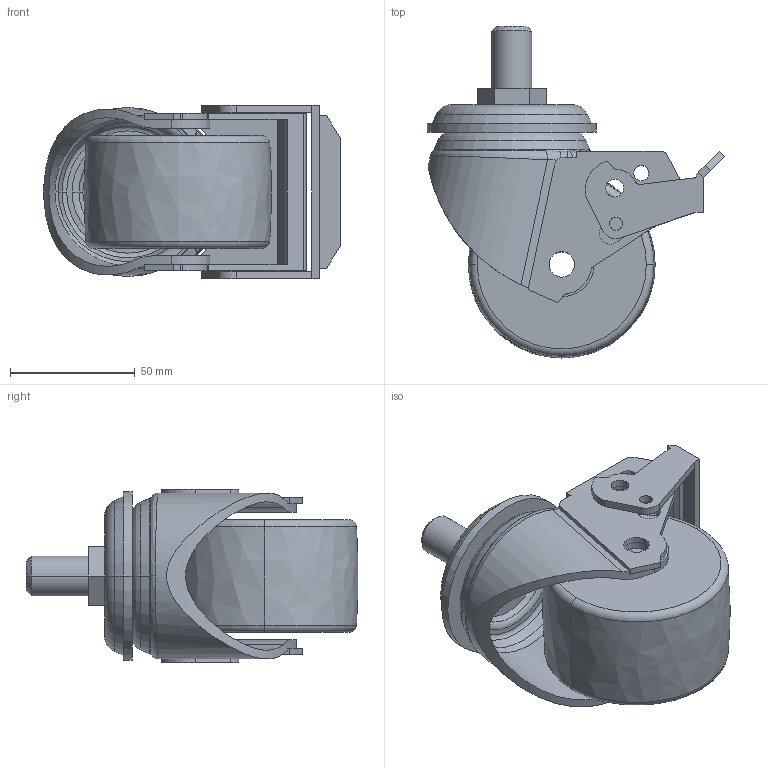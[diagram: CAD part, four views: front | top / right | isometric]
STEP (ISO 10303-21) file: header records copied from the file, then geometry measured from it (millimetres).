
FILE_DESCRIPTION((''),'2;1');
FILE_NAME('M45333_ASM','2024-01-23T',('Lenovo'),(''),'PRO/ENGINEER BY PARAMETRIC TECHNOLOGY CORPORATION, 2010280','PRO/ENGINEER BY PARAMETRIC TECHNOLOGY CORPORATION, 2010280','');
FILE_SCHEMA(('CONFIG_CONTROL_DESIGN'));
Length unit declared in the file: millimetre
Products named in the file (7): M4533-311; M4530-211; M4530-053; M453-986A; M4533-353; M4530-531; M45333_ASM
Assembly tree (6 placements, depth 2):
  M45333_ASM
    M4533-311
    M4530-211
    M4530-053
    M453-986A
    M4533-353
    M4530-531
Bounding box: 119.06 x 132.93 x 69.5 mm (x, y, z)
Volume: 287807.7 mm3; surface area: 76415.4 mm2
Topology: 6 solids, 6 shells, 216 faces, 563 edges, 359 vertices
Faces by surface type: cylinder 85, plane 80, torus 22, cone 16, bspline 11, sphere 2
Entity records: 7733 total; most frequent: CARTESIAN_POINT 2151, DIRECTION 1187, ORIENTED_EDGE 1126, EDGE_CURVE 563, AXIS2_PLACEMENT_3D 458, VERTEX_POINT 359, VECTOR 271, LINE 271
